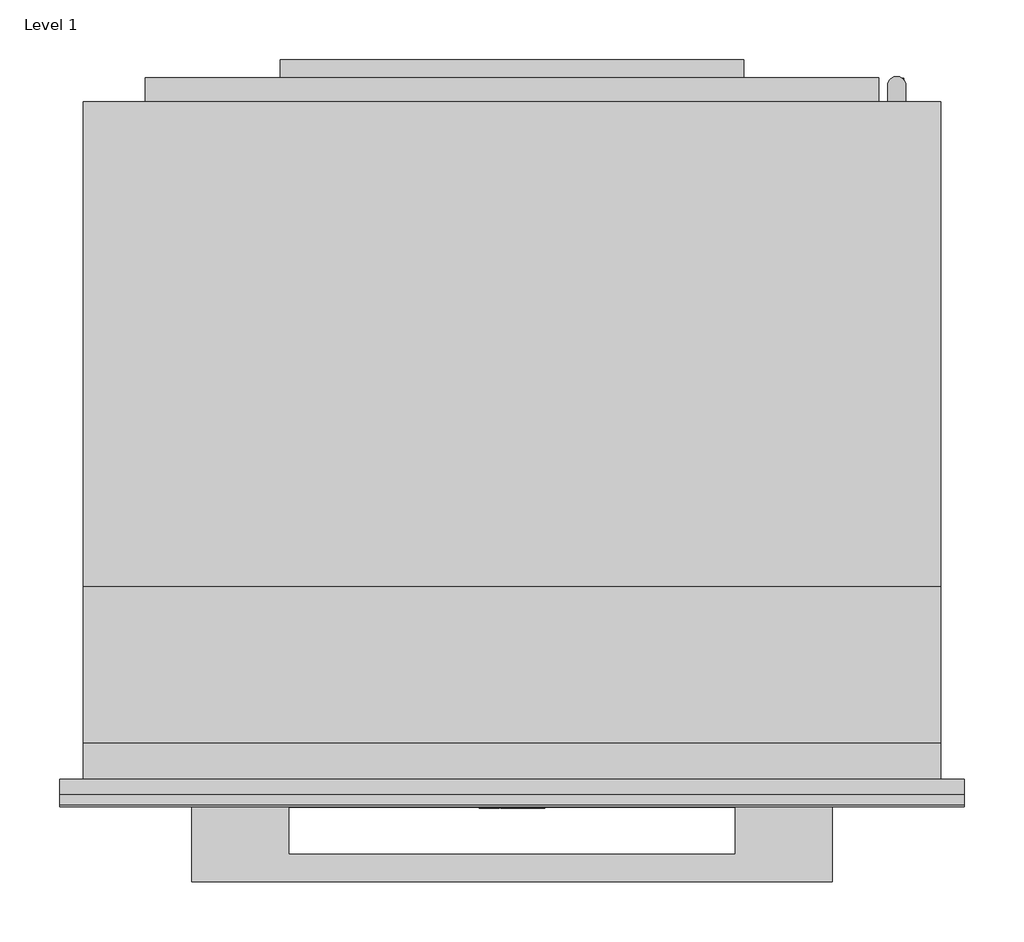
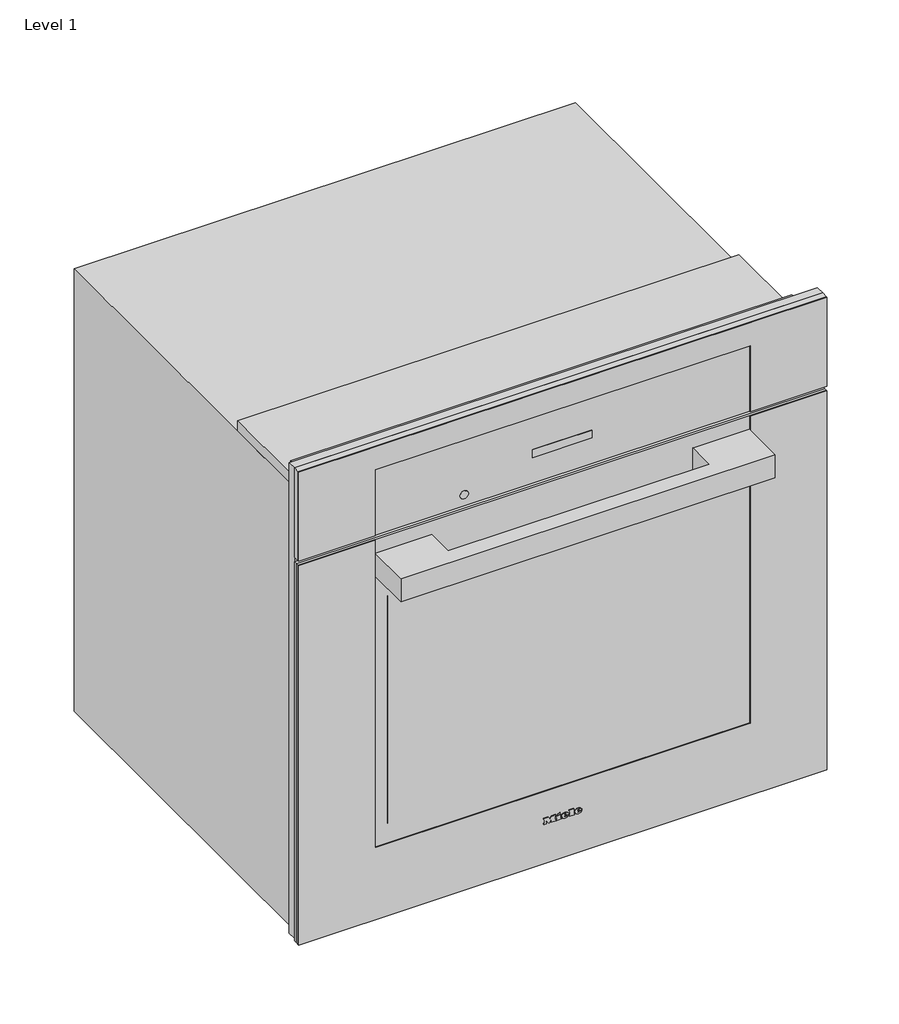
# One storey: 1 proxy.
"""IFC4 building model written with IfcOpenShell, lengths in millimetres."""

from ifc_helpers import new_model, si_unit, origin, place, context, project, spatial, transform, mapped, element, save
from components import specialty_equipment_10852f7c

model = new_model("IFC4")

# Units and contexts
model_context = context("Model", 3, world=origin())
ifc_project = project(units=[si_unit("LENGTHUNIT", "METRE", prefix="MILLI")], contexts=[model_context])

# Site, building, storey
site = spatial("IfcSite", under=ifc_project)
building = spatial("IfcBuilding", under=site)
storey = spatial("IfcBuildingStorey", under=building, Name="Level 1", Elevation=0.0)

# Proxy
placement = place(None, origin())
specialty_equipment_shape = specialty_equipment_10852f7c(model_context)
element("IfcBuildingElementProxy", 1, Name="11805340_USA_H7180BP_EDST-CLST : 22718045_USA_11805340_H7180BP_EDST-CLST", ObjectType="11805340_USA_H7180BP_EDST-CLST : 22718045_USA_11805340_H7180BP_EDST-CLST", at=placement, inside=storey, context=model_context, shape_type="MappedRepresentation", body=[
    mapped(specialty_equipment_shape, transform((0.0, 0.0, 0.0), x_axis=(1.0, 0.0, 0.0), y_axis=(0.0, 1.0, 0.0), z_axis=(0.0, 0.0, 1.0))),
])

save(model, "model.ifc")
